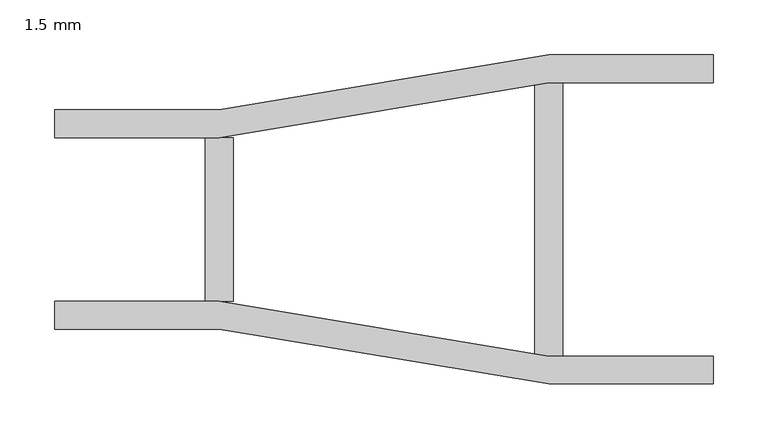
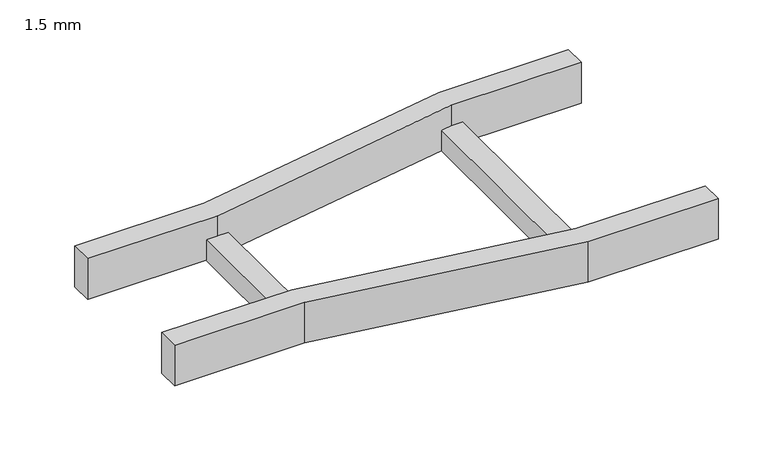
"""IFC4 building model written with IfcOpenShell, lengths in millimetres: cable carrier fitting geometry, BAKS_Redukcja_drabiny : 1.5 mm."""

from ifc_helpers import new_model, si_unit, frame, origin, place, context, project, spatial, polyline, outline, extrude, source, transform, mapped, element, save


def cable_carrier_fitting_1_5_mm_6b6fba04(model_context):
    return source(origin(), model_context, "Body", "SweptSolid", [
        extrude(outline(polyline([(0.0, -100.0), (0.0, -74.6), (150.0, -74.6), (450.0, -124.6), (600.0, -124.6), (600.0, -150.0), (450.0, -150.0), (150.0, -100.0), (0.0, -100.0)])), frame((0.0, 0.0, -25.0), z_axis=(0.0, 0.0, 1.0), x_axis=(1.0, 0.0, 0.0)), (0.0, 0.0, 1.0), 50.0),
        extrude(outline(polyline([(0.0, 74.6), (0.0, 100.0), (150.0, 100.0), (450.0, 150.0), (600.0, 150.0), (600.0, 124.6), (450.0, 124.6), (150.0, 74.6), (0.0, 74.6)])), frame((0.0, 0.0, -25.0), z_axis=(0.0, 0.0, 1.0), x_axis=(1.0, 0.0, 0.0)), (0.0, 0.0, 1.0), 50.0),
        extrude(outline(polyline([(437.3, 124.6), (462.7, 124.6), (462.7, -124.6), (437.3, -124.6), (437.3, 124.6)])), frame((0.0, 0.0, -25.0), z_axis=(0.0, 0.0, 1.0), x_axis=(1.0, 0.0, 0.0)), (0.0, 0.0, 1.0), 25.4),
        extrude(outline(polyline([(137.3, 74.6), (162.7, 74.6), (162.7, -74.6), (137.3, -74.6), (137.3, 74.6)])), frame((0.0, 0.0, -25.0), z_axis=(0.0, 0.0, 1.0), x_axis=(1.0, 0.0, 0.0)), (0.0, 0.0, 1.0), 25.4),
    ])


if __name__ == "__main__":
    model = new_model("IFC4")
    model_context = context("Model", 3, world=origin())
    ifc_project = project(units=[si_unit("LENGTHUNIT", "METRE", prefix="MILLI")], contexts=[model_context])
    site = spatial("IfcSite", under=ifc_project)
    building = spatial("IfcBuilding", under=site)
    placement = place(None, origin())
    cable_carrier_fitting_1_5_mm_shape = cable_carrier_fitting_1_5_mm_6b6fba04(model_context)
    element("IfcCableCarrierFitting", 1, ObjectType="BAKS_Redukcja_drabiny : 1.5 mm", at=placement, inside=building, context=model_context, shape_type="MappedRepresentation", body=[
        mapped(cable_carrier_fitting_1_5_mm_shape, transform((0.0, 0.0, 0.0), x_axis=(1.0, 0.0, 0.0), y_axis=(0.0, 1.0, 0.0), z_axis=(0.0, 0.0, 1.0))),
    ])
    save(model, "model.ifc")
